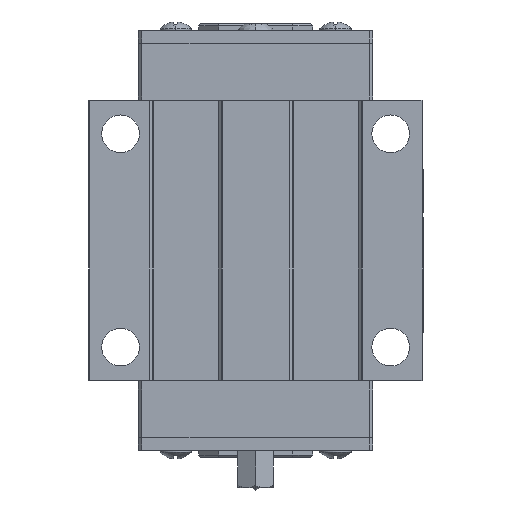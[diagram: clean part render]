
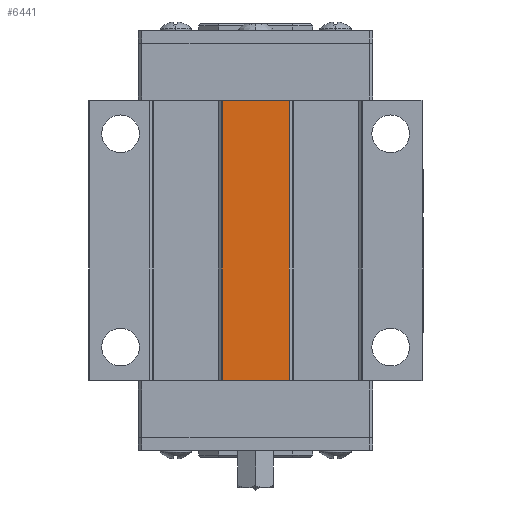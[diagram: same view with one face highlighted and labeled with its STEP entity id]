
A CAD part, front view. The second image highlights one B-rep face of the part: STEP entity #6441.
In plain terms, the highlighted planar face has unit normal (0, -1, 0).
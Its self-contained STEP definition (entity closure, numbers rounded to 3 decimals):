
#592 = VERTEX_POINT ( 'NONE', #12720 ) ;
#772 = DIRECTION ( 'NONE',  ( 1., 0., 0. ) ) ;
#919 = VERTEX_POINT ( 'NONE', #22595 ) ;
#1061 = DIRECTION ( 'NONE',  ( -1., 0., 0. ) ) ;
#1284 = CARTESIAN_POINT ( 'NONE',  ( 23.5, 0., 19.75 ) ) ;
#1746 = ORIENTED_EDGE ( 'NONE', *, *, #7873, .T. ) ;
#2418 = LINE ( 'NONE', #21308, #21178 ) ;
#3080 = DIRECTION ( 'NONE',  ( 0., 0., 1. ) ) ;
#3576 = DIRECTION ( 'NONE',  ( 0., 0., -1. ) ) ;
#4179 = VECTOR ( 'NONE', #3576, 1000. ) ;
#4405 = ORIENTED_EDGE ( 'NONE', *, *, #22343, .T. ) ;
#4490 = VECTOR ( 'NONE', #772, 1000. ) ;
#4843 = ORIENTED_EDGE ( 'NONE', *, *, #9017, .T. ) ;
#5413 = CARTESIAN_POINT ( 'NONE',  ( -4.712, 0., 19.75 ) ) ;
#6392 = CARTESIAN_POINT ( 'NONE',  ( -4.712, 0., -19.65 ) ) ;
#6441 = ADVANCED_FACE ( 'NONE', ( #13000 ), #17529, .F. ) ;
#7559 = VECTOR ( 'NONE', #1061, 1000. ) ;
#7873 = EDGE_CURVE ( 'NONE', #592, #8243, #13859, .T. ) ;
#8243 = VERTEX_POINT ( 'NONE', #6392 ) ;
#9017 = EDGE_CURVE ( 'NONE', #919, #18857, #2418, .T. ) ;
#9339 = LINE ( 'NONE', #18767, #4490 ) ;
#10135 = CARTESIAN_POINT ( 'NONE',  ( -4.75, 0., 19.65 ) ) ;
#10450 = DIRECTION ( 'NONE',  ( 0., 0., 1. ) ) ;
#12399 = LINE ( 'NONE', #10135, #7559 ) ;
#12720 = CARTESIAN_POINT ( 'NONE',  ( -4.712, 0., 19.65 ) ) ;
#13000 = FACE_OUTER_BOUND ( 'NONE', #17173, .T. ) ;
#13859 = LINE ( 'NONE', #5413, #4179 ) ;
#13967 = DIRECTION ( 'NONE',  ( 0., 1., 0. ) ) ;
#17173 = EDGE_LOOP ( 'NONE', ( #1746, #4405, #4843, #19936 ) ) ;
#17529 = PLANE ( 'NONE',  #22701 ) ;
#18767 = CARTESIAN_POINT ( 'NONE',  ( 23.5, 0., -19.65 ) ) ;
#18857 = VERTEX_POINT ( 'NONE', #21581 ) ;
#19834 = EDGE_CURVE ( 'NONE', #18857, #592, #12399, .T. ) ;
#19936 = ORIENTED_EDGE ( 'NONE', *, *, #19834, .T. ) ;
#21178 = VECTOR ( 'NONE', #10450, 1000. ) ;
#21308 = CARTESIAN_POINT ( 'NONE',  ( 4.712, 0., 19.75 ) ) ;
#21581 = CARTESIAN_POINT ( 'NONE',  ( 4.712, 0., 19.65 ) ) ;
#22343 = EDGE_CURVE ( 'NONE', #8243, #919, #9339, .T. ) ;
#22595 = CARTESIAN_POINT ( 'NONE',  ( 4.712, 0., -19.65 ) ) ;
#22701 = AXIS2_PLACEMENT_3D ( 'NONE', #1284, #13967, #3080 ) ;
